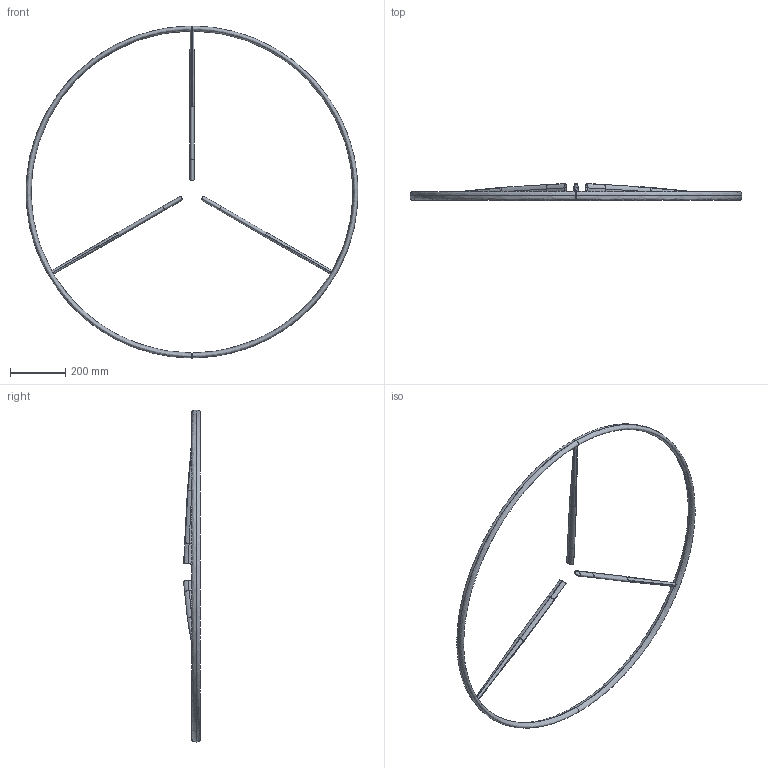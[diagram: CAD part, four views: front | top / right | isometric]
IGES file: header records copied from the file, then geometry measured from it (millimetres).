
Start section: Missler Software BP 521, 31674 Labege Cedex, France Tel   : +33 (0)5 61 00 03 00 Fax   : +33 (0)5 61 00 03 03 Email : sup.topsolid@topsolid.com
Global section: file name: Z:\J\J\Jp3\Barre à roue\Roue 3 rayons TITANE\Homologation\Roue_Titanium_1200.igs; native system: TopSolid v607200 Missler Software; preprocessor: IGES preprocessor v100000; author: Alex Rogeon; date: 091126.090946; units: millimetre
Bounding box: 1198.98 x 60.86 x 1200 mm (x, y, z)
Surface area: 496724.3 mm2 (no closed solid volume)
Topology: 0 solids, 0 shells, 74 faces, 679 edges, 679 vertices
Faces by surface type: bspline 74
